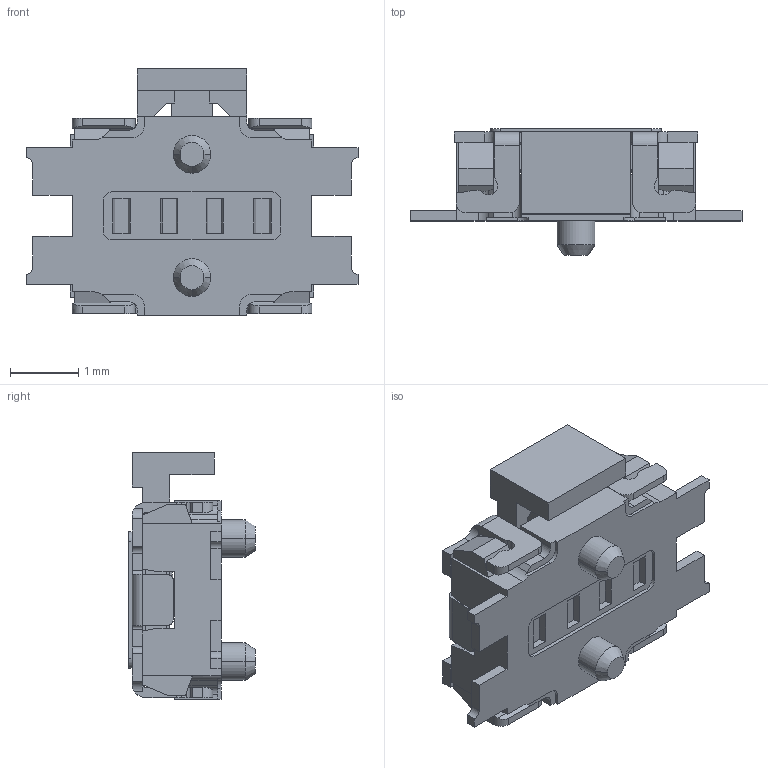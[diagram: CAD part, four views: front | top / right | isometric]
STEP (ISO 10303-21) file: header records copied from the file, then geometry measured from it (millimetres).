
FILE_DESCRIPTION (( 'STEP AP214' ), '1' );
FILE_NAME ('GT-TC045X-HXXX-LXA.STEP', '2025-06-14T03:40:32', ( '' ), ( '' ), 'SwSTEP 2.0', 'SolidWorks 2023', '' );
FILE_SCHEMA (( 'AUTOMOTIVE_DESIGN' ));
Length unit declared in the file: millimetre
Products named in the file (1): GT-TC045X-HXXX-LXA
Bounding box: 4.85 x 1.85 x 3.6 mm (x, y, z)
Volume: 11.2 mm3; surface area: 89.8 mm2
Topology: 4 solids, 4 shells, 656 faces, 1937 edges, 1278 vertices
Faces by surface type: plane 476, cylinder 98, bspline 74, cone 6, sphere 2
Entity records: 25520 total; most frequent: CARTESIAN_POINT 8256, ORIENTED_EDGE 3874, DIRECTION 3120, EDGE_CURVE 1937, LINE 1548, VECTOR 1548, VERTEX_POINT 1278, AXIS2_PLACEMENT_3D 786
